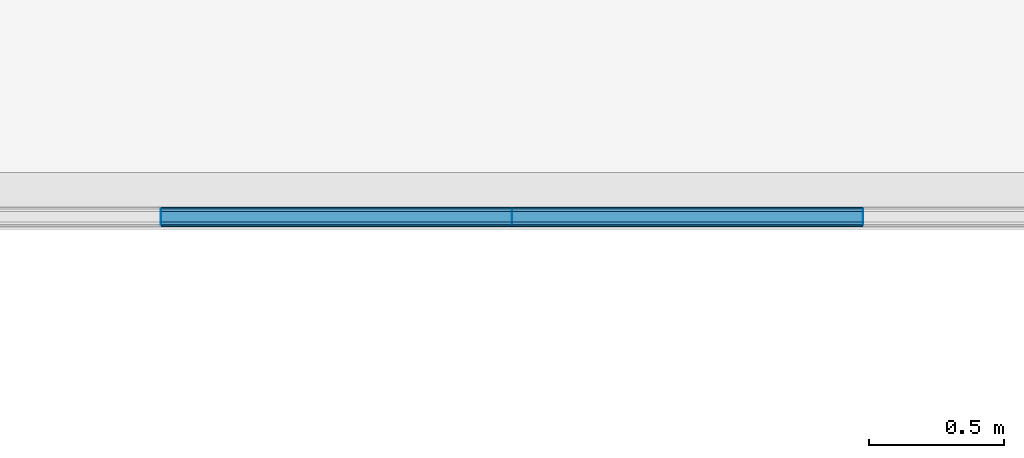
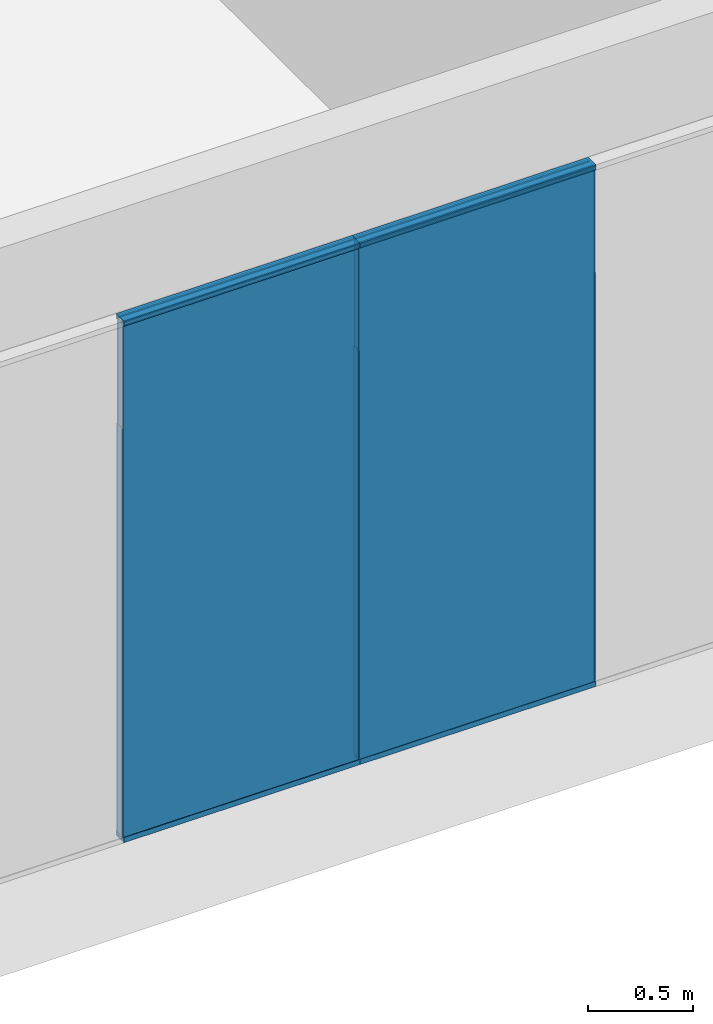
# One storey, part 45 of 387: 18 building element parts, 10 elements without a shape of their own.
"""IFC2X3 building model written with IfcOpenShell, lengths in millimetres."""

from ifc_helpers import new_model, entity, si_unit, converted_unit, derived_unit, money_unit, direction, frame, origin_with_axes, place, context, subcontext, project, spatial, faceted_brep, source, transform, mapped, material, type_object, element, aggregate, save


model = new_model("IFC2X3")

# Units and contexts
model_context = context("Model", 3, precision=0.01, world=origin_with_axes(), true_north=direction((0.0, 1.0)))
body_context = subcontext(model_context, "Body", "Model", "MODEL_VIEW")
ifc_project = project(units=[si_unit("LENGTHUNIT", "METRE", prefix="MILLI"), si_unit("AREAUNIT", "SQUARE_METRE"), si_unit("VOLUMEUNIT", "CUBIC_METRE"), converted_unit("PLANEANGLEUNIT", "DEGREE", entity("IfcPlaneAngleMeasure", 0.0174532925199), si_unit("PLANEANGLEUNIT", "RADIAN"), dimensions=[0, 0, 0, 0, 0, 0, 0]), si_unit("SOLIDANGLEUNIT", "STERADIAN"), money_unit("EUR"), converted_unit("TIMEUNIT", "Year", entity("IfcTimeMeasure", 31556926.0), si_unit("TIMEUNIT", "SECOND"), dimensions=[0, 0, 1, 0, 0, 0, 0]), si_unit("MASSUNIT", "GRAM", prefix="KILO"), si_unit("THERMODYNAMICTEMPERATUREUNIT", "DEGREE_CELSIUS"), si_unit("LUMINOUSINTENSITYUNIT", "LUMEN"), si_unit("ENERGYUNIT", "JOULE", prefix="MEGA"), derived_unit("THERMALCONDUCTANCEUNIT", [(si_unit("POWERUNIT", "WATT"), 1), (si_unit("LENGTHUNIT", "METRE"), -1), (si_unit("THERMODYNAMICTEMPERATUREUNIT", "KELVIN"), -1)]), derived_unit("SPECIFICHEATCAPACITYUNIT", [(si_unit("ENERGYUNIT", "JOULE"), 1), (si_unit("MASSUNIT", "GRAM", prefix="KILO"), -1), (si_unit("THERMODYNAMICTEMPERATUREUNIT", "KELVIN"), -1)]), derived_unit("MASSDENSITYUNIT", [(si_unit("MASSUNIT", "GRAM", prefix="KILO"), 1), (si_unit("VOLUMEUNIT", "CUBIC_METRE"), -1)])], contexts=[model_context])

# Site, building, storey
site_placement = place(None, origin_with_axes())
site = spatial("IfcSite", under=ifc_project, at=site_placement, Name="Puškini 31, Narva", CompositionType="ELEMENT")
building_placement = place(site_placement, origin_with_axes())
building = spatial("IfcBuilding", under=site, at=building_placement, Name="Narva Riigigümnaasium", CompositionType="ELEMENT")
storey_placement = place(building_placement, frame((0.0, 0.0, 2640.0), z_axis=(0.0, 0.0, 1.0), x_axis=(1.0, 0.0, 0.0)))
storey = spatial("IfcBuildingStorey", under=building, at=storey_placement, Name="2.korrus +2.64", CompositionType="ELEMENT", Elevation=2640.0)

# Curtain wall, members, building element parts, plates
curtain_wall_type = type_object("IfcCurtainWallType", Name="Curtain Wall Type", PredefinedType="NOTDEFINED")
curtain_wall_placement = place(storey_placement, frame((44841.2500007, 163537.000002, -0.000124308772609), z_axis=(0.0, 0.0, 1.0), x_axis=(1.0, 0.0, 0.0)))
curtain_wall = element("IfcCurtainWall", 1, at=curtain_wall_placement, inside=storey, type_object=curtain_wall_type, Name="G-SKLF-49")
member_type_1 = type_object("IfcMemberType", Name="Siseklaasfassaad - Raam n2htamatu 3 x 29", PredefinedType="MULLION")
member_1_placement = place(curtain_wall_placement, frame((-3243.75000268, 0.0, 0.0), z_axis=(0.0, 0.0, 1.0), x_axis=(-1.0, 0.0, 0.0)))
member_1 = element("IfcMember", 2, at=member_1_placement, type_object=member_type_1, Name="Frame-Siseklaasf-069", ObjectType="MULLION")
ifc_material_1 = material(Name="Klaas")
shared_shape_1 = source(origin_with_axes(), body_context, "Body", "Brep", [
    faceted_brep([(-1.5000138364, 20.0064497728, 30.0000193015), (1.4999861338, 20.0064497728, 30.0000193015), (1.4999861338, 20.0064497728, 2400.00012431), (-1.5000138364, 20.0064497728, 2400.00012431), (-1.5000138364, 29.0064496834, 30.0000193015), (1.4999861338, 29.0064496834, 30.0000193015), (1.4999861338, 29.0064496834, 2400.00012431), (-1.5000138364, 29.0064496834, 2400.00012431)], [[[0, 1, 2, 3]], [[1, 0, 4, 5]], [[1, 5, 6, 2]], [[2, 6, 7, 3]], [[4, 0, 3, 7]], [[5, 4, 7, 6]]]),
    faceted_brep([(1.4999861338, -28.9935503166, 30.0000193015), (1.4999861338, -19.993550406, 30.0000193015), (1.4999861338, -19.993550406, 2400.00012431), (1.4999861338, -28.9935503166, 2400.00012431), (-1.5000138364, -28.9935503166, 30.0000193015), (-1.5000138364, -19.993550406, 30.0000193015), (-1.5000138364, -19.993550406, 2400.00012431), (-1.5000138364, -28.9935503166, 2400.00012431)], [[[0, 1, 2, 3]], [[1, 0, 4, 5]], [[1, 5, 6, 2]], [[2, 6, 7, 3]], [[4, 0, 3, 7]], [[5, 4, 7, 6]]]),
])
building_element_part_1_placement = place(member_1_placement, origin_with_axes())
building_element_part_1 = element("IfcBuildingElementPart", 3, at=building_element_part_1_placement, material=ifc_material_1, Name="Klaas", context=body_context, shape_type="MappedRepresentation", body=[
    mapped(shared_shape_1, transform((0.0, 0.0, 0.0), x_axis=(-1.0, 0.0, 0.0), y_axis=(0.0, -1.0, 0.0), z_axis=(0.0, 0.0, 1.0))),
])
member_2_placement = place(curtain_wall_placement, frame((-1946.25000268, 0.0, 0.0), z_axis=(0.0, 0.0, 1.0), x_axis=(-1.0, 0.0, 0.0)))
member_2 = element("IfcMember", 4, at=member_2_placement, type_object=member_type_1, Name="Frame-Siseklaasf-070", ObjectType="MULLION")
building_element_part_2_placement = place(member_2_placement, origin_with_axes())
building_element_part_2 = element("IfcBuildingElementPart", 5, at=building_element_part_2_placement, material=ifc_material_1, Name="Klaas", context=body_context, shape_type="MappedRepresentation", body=[
    mapped(shared_shape_1, transform((0.0, 0.0, 0.0), x_axis=(-1.0, 0.0, 0.0), y_axis=(0.0, -1.0, 0.0), z_axis=(0.0, 0.0, 1.0))),
])
member_3_placement = place(curtain_wall_placement, frame((-648.750002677, 0.0, 0.0), z_axis=(0.0, 0.0, 1.0), x_axis=(-1.0, 0.0, 0.0)))
member_3 = element("IfcMember", 6, at=member_3_placement, type_object=member_type_1, Name="Frame-Siseklaasf-071", ObjectType="MULLION")
building_element_part_3_placement = place(member_3_placement, origin_with_axes())
building_element_part_3 = element("IfcBuildingElementPart", 7, at=building_element_part_3_placement, material=ifc_material_1, Name="Klaas", context=body_context, shape_type="MappedRepresentation", body=[
    mapped(shared_shape_1, transform((0.0, 0.0, 0.0), x_axis=(-1.0, 0.0, 0.0), y_axis=(0.0, -1.0, 0.0), z_axis=(0.0, 0.0, 1.0))),
])
ifc_material_2 = material(Name="VKR-06_Õhkvahe")
shared_shape_2 = source(origin_with_axes(), body_context, "Body", "Brep", [
    faceted_brep([(1.4999861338, -19.9935503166, 30.0000193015), (1.4999861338, 20.0064496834, 30.0000193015), (1.4999861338, 20.0064496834, 2400.00012431), (1.4999861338, -19.9935503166, 2400.00012431), (-1.5000138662, -19.9935503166, 30.0000193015), (-1.5000138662, 20.0064496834, 30.0000193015), (-1.5000138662, 20.0064496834, 2400.00012431), (-1.5000138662, -19.9935503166, 2400.00012431)], [[[0, 1, 2, 3]], [[1, 0, 4, 5]], [[1, 5, 6, 2]], [[2, 6, 7, 3]], [[4, 0, 3, 7]], [[5, 4, 7, 6]]]),
])
building_element_part_4_placement = place(member_1_placement, origin_with_axes())
building_element_part_4 = element("IfcBuildingElementPart", 8, at=building_element_part_4_placement, material=ifc_material_2, Name="VKR-06_Õhkvahe", context=body_context, shape_type="MappedRepresentation", body=[
    mapped(shared_shape_2, transform((0.0, 0.0, 0.0), x_axis=(-1.0, 0.0, 0.0), y_axis=(0.0, -1.0, 0.0), z_axis=(0.0, 0.0, 1.0))),
])
aggregate(member_1, [building_element_part_1, building_element_part_4])
building_element_part_5_placement = place(member_2_placement, origin_with_axes())
building_element_part_5 = element("IfcBuildingElementPart", 9, at=building_element_part_5_placement, material=ifc_material_2, Name="VKR-06_Õhkvahe", context=body_context, shape_type="MappedRepresentation", body=[
    mapped(shared_shape_2, transform((0.0, 0.0, 0.0), x_axis=(-1.0, 0.0, 0.0), y_axis=(0.0, -1.0, 0.0), z_axis=(0.0, 0.0, 1.0))),
])
aggregate(member_2, [building_element_part_2, building_element_part_5])
building_element_part_6_placement = place(member_3_placement, origin_with_axes())
building_element_part_6 = element("IfcBuildingElementPart", 10, at=building_element_part_6_placement, material=ifc_material_2, Name="VKR-06_Õhkvahe", context=body_context, shape_type="MappedRepresentation", body=[
    mapped(shared_shape_2, transform((0.0, 0.0, 0.0), x_axis=(-1.0, 0.0, 0.0), y_axis=(0.0, -1.0, 0.0), z_axis=(0.0, 0.0, 1.0))),
])
aggregate(member_3, [building_element_part_3, building_element_part_6])
member_type_2 = type_object("IfcMemberType", Name="Boundary Frame 30 x 37", PredefinedType="MULLION")
member_4_placement = place(curtain_wall_placement, frame((-1946.25000268, 0.0, 3030.00000658), z_axis=(-1.0, 0.0, 0.0), x_axis=(0.0, 0.0, -1.0)))
member_4 = element("IfcMember", 11, at=member_4_placement, type_object=member_type_2, Name="G-SKLF-69-raam", ObjectType="MULLION")
ifc_material_3 = material(Name="Klaasvill")
shared_shape_3 = source(origin_with_axes(), body_context, "Body", "Brep", [
    faceted_brep([(-7.49999990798, 20.000000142, 0.0), (-7.49999990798, 20.000000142, 1297.5), (-13.8499999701, 20.000000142, 1297.5), (-13.8499999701, 20.000000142, 0.0), (-7.49999990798, 34.0161444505, 0.0), (-7.49999990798, 34.0161444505, 1297.5), (-13.8499999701, 34.0161444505, 1297.5), (-13.8499999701, 34.0161444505, 0.0)], [[[0, 1, 2, 3]], [[4, 5, 1, 0]], [[1, 5, 6, 2]], [[3, 2, 6, 7]], [[0, 3, 7, 4]], [[7, 6, 5, 4]]]),
    faceted_brep([(-24.987414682, 34.0161444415, 0.0), (-24.987414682, 34.0161444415, 1297.5), (-25.004489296, 32.0307503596, 1297.5), (-25.004489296, 32.0307503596, 0.0), (-28.5126239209, 34.0161444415, 0.0), (-28.5126239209, 34.0161444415, 1297.5), (-28.7655837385, 33.0385325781, 1297.5), (-28.4955493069, 32.0307503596, 1297.5), (-27.75780152, 31.2930025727, 1297.5), (-26.7500193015, 31.0229681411, 1297.5), (-25.742237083, 31.2930025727, 1297.5), (-25.742237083, 31.2930025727, 0.0), (-26.7500193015, 31.0229681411, 0.0), (-27.75780152, 31.2930025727, 0.0), (-28.4955493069, 32.0307503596, 0.0), (-28.7655837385, 33.0385325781, 0.0)], [[[0, 1, 2, 3]], [[4, 5, 1, 0]], [[1, 5, 6, 7, 8, 9, 10, 2]], [[3, 2, 10, 11]], [[0, 3, 11, 12, 13, 14, 15, 4]], [[15, 6, 5, 4]], [[14, 7, 6, 15]], [[13, 8, 7, 14]], [[12, 9, 8, 13]], [[11, 10, 9, 12]]]),
    faceted_brep([(-7.49999990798, -19.9999997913, 0.0), (-7.49999990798, -19.9999997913, 1297.5), (-7.49999990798, -34.0161445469, 1297.5), (-7.49999990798, -34.0161445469, 0.0), (-13.8499999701, -19.9999997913, 0.0), (-13.8499999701, -19.9999997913, 1297.5), (-13.8499999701, -34.0161445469, 1297.5), (-13.8499999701, -34.0161445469, 0.0)], [[[0, 1, 2, 3]], [[4, 5, 1, 0]], [[1, 5, 6, 2]], [[3, 2, 6, 7]], [[0, 3, 7, 4]], [[7, 6, 5, 4]]]),
    faceted_brep([(-25.004489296, -32.0307503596, 0.0), (-25.004489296, -32.0307503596, 1297.5), (-24.987414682, -34.0161444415, 1297.5), (-24.987414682, -34.0161444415, 0.0), (-25.742237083, -31.2930025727, 0.0), (-25.742237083, -31.2930025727, 1297.5), (-26.7500193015, -31.0229681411, 1297.5), (-27.75780152, -31.2930025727, 1297.5), (-28.4955493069, -32.0307503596, 1297.5), (-28.7655837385, -33.0385325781, 1297.5), (-28.5126239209, -34.0161444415, 1297.5), (-28.5126239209, -34.0161444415, 0.0), (-28.7655837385, -33.0385325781, 0.0), (-28.4955493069, -32.0307503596, 0.0), (-27.75780152, -31.2930025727, 0.0), (-26.7500193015, -31.0229681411, 0.0)], [[[0, 1, 2, 3]], [[4, 5, 1, 0]], [[1, 5, 6, 7, 8, 9, 10, 2]], [[3, 2, 10, 11]], [[0, 3, 11, 12, 13, 14, 15, 4]], [[15, 6, 5, 4]], [[14, 7, 6, 15]], [[13, 8, 7, 14]], [[12, 9, 8, 13]], [[11, 10, 9, 12]]]),
])
building_element_part_7_placement = place(member_4_placement, origin_with_axes())
building_element_part_7 = element("IfcBuildingElementPart", 12, at=building_element_part_7_placement, material=ifc_material_3, Name="Klaasvill", context=body_context, shape_type="MappedRepresentation", body=[
    mapped(shared_shape_3, transform((0.0, 0.0, 0.0), x_axis=(-1.0, 0.0, 0.0), y_axis=(0.0, -1.0, 0.0), z_axis=(0.0, 0.0, 1.0))),
])
member_5_placement = place(curtain_wall_placement, frame((-648.750002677, 0.0, 3030.00000658), z_axis=(-1.0, 0.0, 0.0), x_axis=(0.0, 0.0, -1.0)))
member_5 = element("IfcMember", 13, at=member_5_placement, type_object=member_type_2, Name="G-SKLF-68-raam", ObjectType="MULLION")
building_element_part_8_placement = place(member_5_placement, origin_with_axes())
building_element_part_8 = element("IfcBuildingElementPart", 14, at=building_element_part_8_placement, material=ifc_material_3, Name="Klaasvill", context=body_context, shape_type="MappedRepresentation", body=[
    mapped(shared_shape_3, transform((0.0, 0.0, 0.0), x_axis=(-1.0, 0.0, 0.0), y_axis=(0.0, -1.0, 0.0), z_axis=(0.0, 0.0, 1.0))),
])
member_6_placement = place(curtain_wall_placement, frame((-3243.75000268, 0.0, 0.0), z_axis=(1.0, 0.0, 0.0), x_axis=(0.0, 0.0, 1.0)))
member_6 = element("IfcMember", 15, at=member_6_placement, type_object=member_type_2, Name="G-SKLF-62-raam", ObjectType="MULLION")
building_element_part_9_placement = place(member_6_placement, origin_with_axes())
building_element_part_9 = element("IfcBuildingElementPart", 16, at=building_element_part_9_placement, material=ifc_material_3, Name="Klaasvill", context=body_context, shape_type="MappedRepresentation", body=[
    mapped(shared_shape_3, transform((0.0, 0.0, 0.0), x_axis=(-1.0, 0.0, 0.0), y_axis=(0.0, -1.0, 0.0), z_axis=(0.0, 0.0, 1.0))),
])
member_7_placement = place(curtain_wall_placement, frame((-1946.25000268, 0.0, 0.0), z_axis=(1.0, 0.0, 0.0), x_axis=(0.0, 0.0, 1.0)))
member_7 = element("IfcMember", 17, at=member_7_placement, type_object=member_type_2, Name="G-SKLF-63-raam", ObjectType="MULLION")
building_element_part_10_placement = place(member_7_placement, origin_with_axes())
building_element_part_10 = element("IfcBuildingElementPart", 18, at=building_element_part_10_placement, material=ifc_material_3, Name="Klaasvill", context=body_context, shape_type="MappedRepresentation", body=[
    mapped(shared_shape_3, transform((0.0, 0.0, 0.0), x_axis=(-1.0, 0.0, 0.0), y_axis=(0.0, -1.0, 0.0), z_axis=(0.0, 0.0, 1.0))),
])
ifc_material_4 = material(Name="Teras RAL7012")
shared_shape_4 = source(origin_with_axes(), body_context, "Body", "Brep", [
    faceted_brep([(0.0, -17.0000000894, 0.0), (0.0, -17.0000000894, 1297.5), (-29.5999996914, -17.0000000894, 1297.5), (-29.5999996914, -17.0000000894, 0.0), (0.0, 17.0000000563, 0.0), (0.0, 17.0000000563, 1297.5), (-29.5999996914, 17.0000000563, 1297.5), (-1.9999999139, 15.0000001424, 1297.5), (-1.9999999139, -15.0000001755, 1297.5), (-18.7999996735, -15.0000001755, 1297.5), (-18.7999996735, 15.0000001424, 1297.5), (-29.5999996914, 17.0000000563, 0.0), (-1.9999999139, 15.0000001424, 0.0), (-18.7999996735, 15.0000001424, 0.0), (-18.7999996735, -15.0000001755, 0.0), (-1.9999999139, -15.0000001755, 0.0)], [[[0, 1, 2, 3]], [[4, 5, 1, 0]], [[1, 5, 6, 2], [7, 8, 9, 10]], [[3, 2, 6, 11]], [[0, 3, 11, 4], [12, 13, 14, 15]], [[11, 6, 5, 4]], [[15, 8, 7, 12]], [[14, 9, 8, 15]], [[13, 10, 9, 14]], [[12, 7, 10, 13]]]),
    faceted_brep([(0.0, 17.0, 0.0), (0.0, 17.0, 1297.5), (-29.5999996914, 17.0000000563, 1297.5), (-29.5999996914, 17.0000000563, 0.0), (0.0, 37.0, 0.0), (0.0, 37.0, 1297.5), (-30.0000193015, 37.0, 1297.5), (-30.0000193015, 34.0161444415, 1297.5), (-28.5126239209, 34.0161444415, 1297.5), (-24.987414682, 34.0161444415, 1297.5), (-13.8499999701, 34.0161444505, 1297.5), (-7.49999999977, 34.0161444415, 1297.5), (-7.49999999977, 20.0, 1297.5), (-13.8499999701, 20.000000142, 1297.5), (-30.0000193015, 20.0, 1297.5), (-30.0000193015, 17.0, 1297.5), (-30.0000193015, 17.0, 0.0), (-30.0000193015, 20.0, 0.0), (-13.8499999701, 20.000000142, 0.0), (-7.49999999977, 20.0, 0.0), (-7.49999999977, 34.0161444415, 0.0), (-13.8499999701, 34.0161444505, 0.0), (-24.987414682, 34.0161444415, 0.0), (-28.5126239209, 34.0161444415, 0.0), (-30.0000193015, 34.0161444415, 0.0), (-30.0000193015, 37.0, 0.0)], [[[0, 1, 2, 3]], [[4, 5, 1, 0]], [[1, 5, 6, 7, 8, 9, 10, 11, 12, 13, 14, 15, 2]], [[3, 2, 15, 16]], [[0, 3, 16, 17, 18, 19, 20, 21, 22, 23, 24, 25, 4]], [[25, 6, 5, 4]], [[24, 7, 6, 25]], [[23, 8, 7, 24]], [[22, 9, 8, 23]], [[21, 10, 9, 22]], [[20, 11, 10, 21]], [[19, 12, 11, 20]], [[18, 13, 12, 19]], [[17, 14, 13, 18]], [[16, 15, 14, 17]]]),
    faceted_brep([(0.0, -17.0, 0.0), (0.0, -17.0, 1297.5), (0.0, -37.0, 1297.5), (0.0, -37.0, 0.0), (-29.5999996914, -17.0000000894, 0.0), (-29.5999996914, -17.0000000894, 1297.5), (-30.0000193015, -17.0, 1297.5), (-30.0000193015, -20.0, 1297.5), (-13.8499999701, -19.9999997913, 1297.5), (-7.49999999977, -20.0, 1297.5), (-7.49999999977, -34.0161444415, 1297.5), (-13.8499999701, -34.0161445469, 1297.5), (-24.987414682, -34.0161444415, 1297.5), (-28.5126239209, -34.0161444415, 1297.5), (-30.0000193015, -34.0161444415, 1297.5), (-30.0000193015, -37.0, 1297.5), (-30.0000193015, -37.0, 0.0), (-30.0000193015, -34.0161444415, 0.0), (-28.5126239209, -34.0161444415, 0.0), (-24.987414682, -34.0161444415, 0.0), (-13.8499999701, -34.0161445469, 0.0), (-7.49999999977, -34.0161444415, 0.0), (-7.49999999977, -20.0, 0.0), (-13.8499999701, -19.9999997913, 0.0), (-30.0000193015, -20.0, 0.0), (-30.0000193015, -17.0, 0.0)], [[[0, 1, 2, 3]], [[4, 5, 1, 0]], [[1, 5, 6, 7, 8, 9, 10, 11, 12, 13, 14, 15, 2]], [[3, 2, 15, 16]], [[0, 3, 16, 17, 18, 19, 20, 21, 22, 23, 24, 25, 4]], [[25, 6, 5, 4]], [[24, 7, 6, 25]], [[23, 8, 7, 24]], [[22, 9, 8, 23]], [[21, 10, 9, 22]], [[20, 11, 10, 21]], [[19, 12, 11, 20]], [[18, 13, 12, 19]], [[17, 14, 13, 18]], [[16, 15, 14, 17]]]),
])
building_element_part_11_placement = place(member_4_placement, origin_with_axes())
building_element_part_11 = element("IfcBuildingElementPart", 19, at=building_element_part_11_placement, material=ifc_material_4, Name="Teras RAL7012", context=body_context, shape_type="MappedRepresentation", body=[
    mapped(shared_shape_4, transform((0.0, 0.0, 0.0), x_axis=(-1.0, 0.0, 0.0), y_axis=(0.0, -1.0, 0.0), z_axis=(0.0, 0.0, 1.0))),
])
aggregate(member_4, [building_element_part_7, building_element_part_11])
building_element_part_12_placement = place(member_5_placement, origin_with_axes())
building_element_part_12 = element("IfcBuildingElementPart", 20, at=building_element_part_12_placement, material=ifc_material_4, Name="Teras RAL7012", context=body_context, shape_type="MappedRepresentation", body=[
    mapped(shared_shape_4, transform((0.0, 0.0, 0.0), x_axis=(-1.0, 0.0, 0.0), y_axis=(0.0, -1.0, 0.0), z_axis=(0.0, 0.0, 1.0))),
])
aggregate(member_5, [building_element_part_8, building_element_part_12])
building_element_part_13_placement = place(member_6_placement, origin_with_axes())
building_element_part_13 = element("IfcBuildingElementPart", 21, at=building_element_part_13_placement, material=ifc_material_4, Name="Teras RAL7012", context=body_context, shape_type="MappedRepresentation", body=[
    mapped(shared_shape_4, transform((0.0, 0.0, 0.0), x_axis=(-1.0, 0.0, 0.0), y_axis=(0.0, -1.0, 0.0), z_axis=(0.0, 0.0, 1.0))),
])
aggregate(member_6, [building_element_part_9, building_element_part_13])
building_element_part_14_placement = place(member_7_placement, origin_with_axes())
building_element_part_14 = element("IfcBuildingElementPart", 22, at=building_element_part_14_placement, material=ifc_material_4, Name="Teras RAL7012", context=body_context, shape_type="MappedRepresentation", body=[
    mapped(shared_shape_4, transform((0.0, 0.0, 0.0), x_axis=(-1.0, 0.0, 0.0), y_axis=(0.0, -1.0, 0.0), z_axis=(0.0, 0.0, 1.0))),
])
aggregate(member_7, [building_element_part_10, building_element_part_14])
plate_type = type_object("IfcPlateType", Name="Siseklaasfassaad - Klaas 1295 x 615 x 10", PredefinedType="CURTAIN_PANEL")
plate_1_placement = place(curtain_wall_placement, frame((-2595.00000268, 0.0, 1810.00004363), z_axis=(0.0, 0.0, 1.0), x_axis=(-1.0, 0.0, 0.0)))
plate_1 = element("IfcPlate", 23, at=plate_1_placement, type_object=plate_type, Name="G-SKLF-49-klaas", ObjectType="CURTAIN_PANEL")
ifc_material_5 = material(Name="VKR-05_Klaas")
shared_shape_5 = source(origin_with_axes(), body_context, "Body", "Brep", [
    faceted_brep([(-1296.00000371, 3014.99999671, -29.0), (-1296.00000371, 3014.99999671, -20.0), (-1.49999195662, 3014.99999671, -20.0), (-1.49999195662, 3014.99999671, -29.0), (-1296.00000371, 15.0000098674, -29.0), (-1296.00000371, 15.0000098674, -20.0), (-1.49999195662, 15.0000098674, -20.0), (-1.49999195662, 15.0000098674, -29.0)], [[[0, 1, 2, 3]], [[4, 5, 1, 0]], [[1, 5, 6, 2]], [[3, 2, 6, 7]], [[0, 3, 7, 4]], [[7, 6, 5, 4]]]),
    faceted_brep([(-1296.00000371, 3014.99999671, 20.0), (-1296.00000371, 3014.99999671, 29.0), (-1.49999195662, 3014.99999671, 29.0), (-1.49999195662, 3014.99999671, 20.0), (-1296.00000371, 15.0000098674, 20.0), (-1296.00000371, 15.0000098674, 29.0), (-1.49999195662, 15.0000098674, 29.0), (-1.49999195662, 15.0000098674, 20.0)], [[[0, 1, 2, 3]], [[4, 5, 1, 0]], [[1, 5, 6, 2]], [[3, 2, 6, 7]], [[0, 3, 7, 4]], [[7, 6, 5, 4]]]),
])
building_element_part_15_placement = place(plate_1_placement, origin_with_axes())
building_element_part_15 = element("IfcBuildingElementPart", 24, at=building_element_part_15_placement, material=ifc_material_5, Name="VKR-05_Klaas", context=body_context, shape_type="MappedRepresentation", body=[
    mapped(shared_shape_5, transform((648.75, 0.0, -1810.00004363), x_axis=(1.0, 0.0, 0.0), y_axis=(0.0, 0.0, 1.0), z_axis=(0.0, -1.0, 0.0))),
])
plate_2_placement = place(curtain_wall_placement, frame((-1297.50000268, 0.0, 1810.00004363), z_axis=(0.0, 0.0, 1.0), x_axis=(-1.0, 0.0, 0.0)))
plate_2 = element("IfcPlate", 25, at=plate_2_placement, type_object=plate_type, Name="G-SKLF-49-klaas", ObjectType="CURTAIN_PANEL")
aggregate(curtain_wall, [member_4, member_5, member_6, member_1, member_2, member_7, member_3, plate_1, plate_2])
building_element_part_16_placement = place(plate_2_placement, origin_with_axes())
building_element_part_16 = element("IfcBuildingElementPart", 26, at=building_element_part_16_placement, material=ifc_material_5, Name="VKR-05_Klaas", context=body_context, shape_type="MappedRepresentation", body=[
    mapped(shared_shape_5, transform((648.75, 0.0, -1810.00004363), x_axis=(1.0, 0.0, 0.0), y_axis=(0.0, 0.0, 1.0), z_axis=(0.0, -1.0, 0.0))),
])
shared_shape_6 = source(origin_with_axes(), body_context, "Body", "Brep", [
    faceted_brep([(-1296.00000371, 3014.99999671, -20.0), (-1296.00000371, 3014.99999671, 20.0), (-1.49999195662, 3014.99999671, 20.0), (-1.49999195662, 3014.99999671, -20.0), (-1296.00000371, 15.0000098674, -20.0), (-1296.00000371, 15.0000098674, 20.0), (-1.49999195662, 15.0000098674, 20.0), (-1.49999195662, 15.0000098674, -20.0)], [[[0, 1, 2, 3]], [[4, 5, 1, 0]], [[1, 5, 6, 2]], [[3, 2, 6, 7]], [[0, 3, 7, 4]], [[7, 6, 5, 4]]]),
])
building_element_part_17_placement = place(plate_1_placement, origin_with_axes())
building_element_part_17 = element("IfcBuildingElementPart", 27, at=building_element_part_17_placement, material=ifc_material_2, Name="VKR-06_Õhkvahe", context=body_context, shape_type="MappedRepresentation", body=[
    mapped(shared_shape_6, transform((648.75, 0.0, -1810.00004363), x_axis=(1.0, 0.0, 0.0), y_axis=(0.0, 0.0, 1.0), z_axis=(0.0, -1.0, 0.0))),
])
aggregate(plate_1, [building_element_part_15, building_element_part_17])
building_element_part_18_placement = place(plate_2_placement, origin_with_axes())
building_element_part_18 = element("IfcBuildingElementPart", 28, at=building_element_part_18_placement, material=ifc_material_2, Name="VKR-06_Õhkvahe", context=body_context, shape_type="MappedRepresentation", body=[
    mapped(shared_shape_6, transform((648.75, 0.0, -1810.00004363), x_axis=(1.0, 0.0, 0.0), y_axis=(0.0, 0.0, 1.0), z_axis=(0.0, -1.0, 0.0))),
])
aggregate(plate_2, [building_element_part_16, building_element_part_18])

save(model, "model.ifc")
